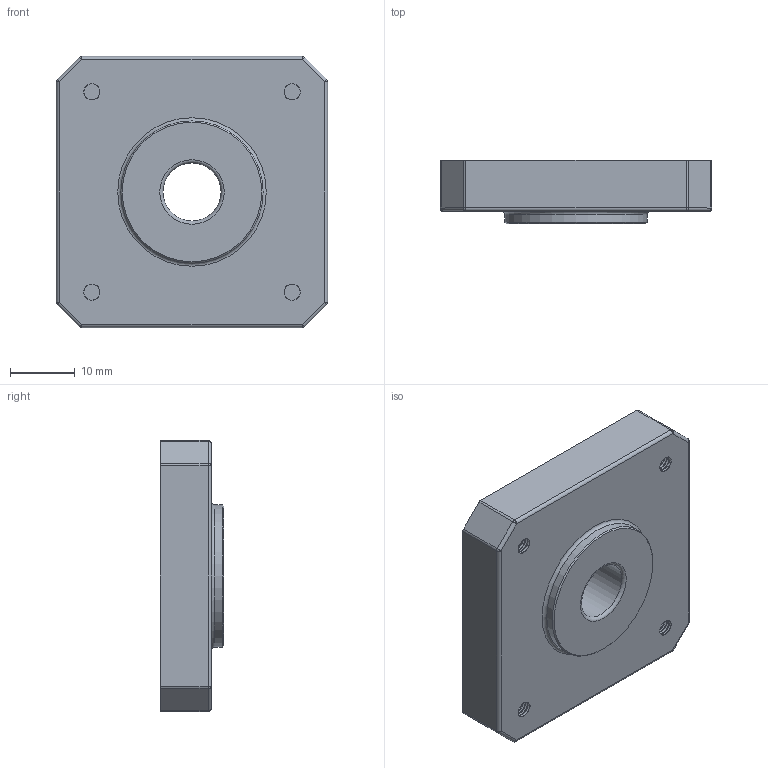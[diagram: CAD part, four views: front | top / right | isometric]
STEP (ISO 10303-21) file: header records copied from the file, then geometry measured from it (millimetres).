
FILE_DESCRIPTION(/* description */ ('STEP AP242','CAx-IF Rec.Pracs.---Representation and Presentation of Product Manufacturing Information (PMI)---4.0---2014-10-13','CAx-IF Rec.Pracs.---3D Tessellated Geometry---0.4---2014-09-14','2;1'),/* implementation_level */ '2;1');
FILE_NAME(/* name */ 'Arm Assembly - Nima 17 40x42x5mm (2)',/* time_stamp */ '2025-06-20T22:34:11Z',/* author */ (''),/* organization */ (''),/* preprocessor_version */ 'ST-DEVELOPER v20',/* originating_system */ 'ONSHAPE BY PTC INC, 1.199',/* authorisation */ ' ');
FILE_SCHEMA (('AP242_MANAGED_MODEL_BASED_3D_ENGINEERING_MIM_LF { 1 0 10303 442 1 1 4 }'));
Length unit declared in the file: metre
Products named in the file (1): Nima 17 40x42x5mm
Bounding box: 42 x 9.8 x 42 mm (x, y, z)
Volume: 13716.5 mm3; surface area: 5369 mm2
Topology: 1 solids, 1 shells, 68 faces, 404 edges, 335 vertices
Faces by surface type: cylinder 30, plane 19, bspline 8, sphere 8, torus 2, cone 1
Full cylindrical faces by diameter (mm): 9 x1, 22 x1
Entity records: 12384 total; most frequent: CARTESIAN_POINT 9927, ORIENTED_EDGE 790, EDGE_CURVE 395, VERTEX_POINT 335, DIRECTION 304, AXIS2_PLACEMENT_3D 124, EDGE_LOOP 84, FACE_BOUND 84
